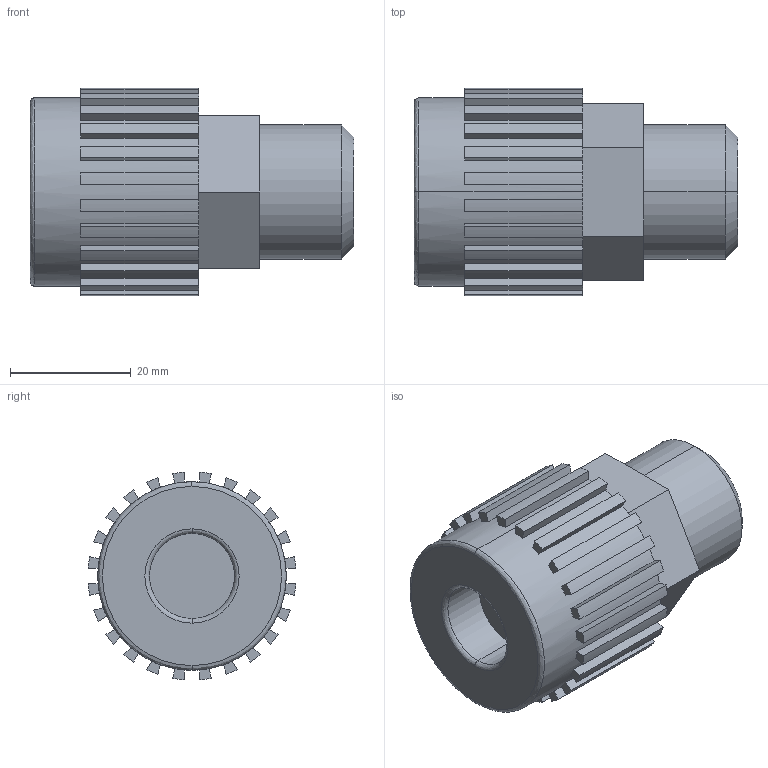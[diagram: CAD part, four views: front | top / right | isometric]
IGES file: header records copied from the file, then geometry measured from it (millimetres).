
Start section: SolidWorks IGES file using analytic representation for surfaces
Global section: file name: S:\Product Visuals\Defeatured Models and Parts Library\Parts Library IGES & STEP\Liquid Fittings\Front Mount liquid Fittings\Pillar S-300\30LPM\Fitting Pillar S-300 08 .IGS; native system: SolidWorks 2012; preprocessor: SolidWorks 2012; author: rachel.dressel; date: 120928.134712; units: inch
Bounding box: 53.7 x 34.45 x 34.45 mm (x, y, z)
Volume: 33079.3 mm3; surface area: 8376.8 mm2
Topology: 1 solids, 1 shells, 119 faces, 336 edges, 222 vertices
Faces by surface type: plane 83, revolution 36
